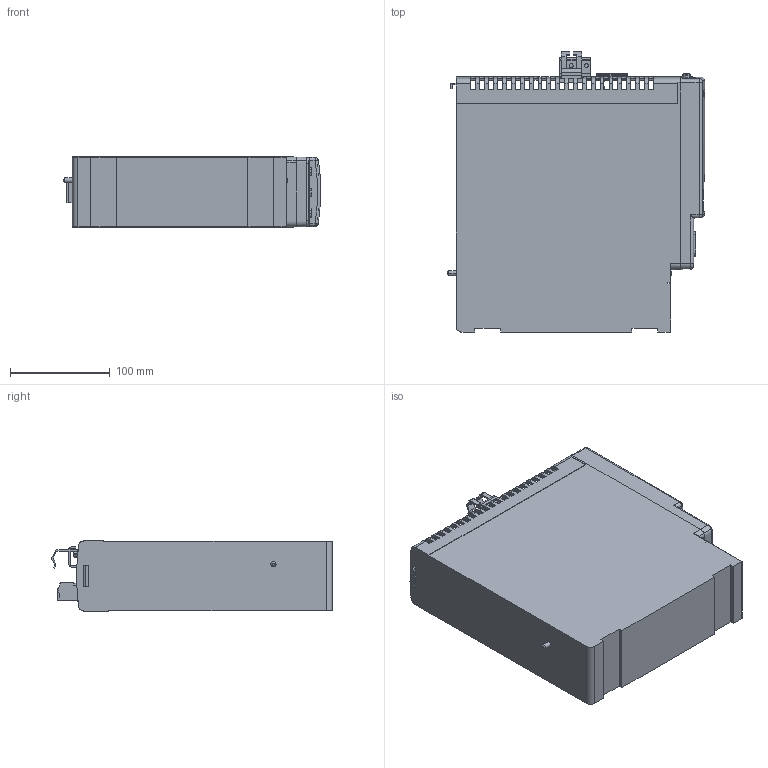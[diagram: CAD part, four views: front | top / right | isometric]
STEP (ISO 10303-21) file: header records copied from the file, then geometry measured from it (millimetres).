
FILE_DESCRIPTION (( 'STEP AP214' ), '1' );
FILE_NAME ('Rockwell Automation-2094-BMP5-S.STEP', '2012-05-21T14:55:35', ( 'Solidworks' ), ( 'Solidworks' ), 'SwSTEP 2.0', 'SolidWorks 2012', '' );
FILE_SCHEMA (( 'AUTOMOTIVE_DESIGN' ));
Length unit declared in the file: millimetre
Products named in the file (1): Rockwell Automation-2094-BMP5-S
Bounding box: 258.11 x 280.99 x 71.04 mm (x, y, z)
Volume: 515927.4 mm3; surface area: 390001 mm2
Topology: 2 solids, 2 shells, 1639 faces, 4652 edges, 3080 vertices
Faces by surface type: plane 812, cylinder 492, bspline 294, torus 26, cone 13, sphere 2
Entity records: 70658 total; most frequent: CARTESIAN_POINT 25685, ORIENTED_EDGE 9304, DIRECTION 7183, EDGE_CURVE 4652, VERTEX_POINT 3080, AXIS2_PLACEMENT_3D 2443, LINE 2297, VECTOR 2297
